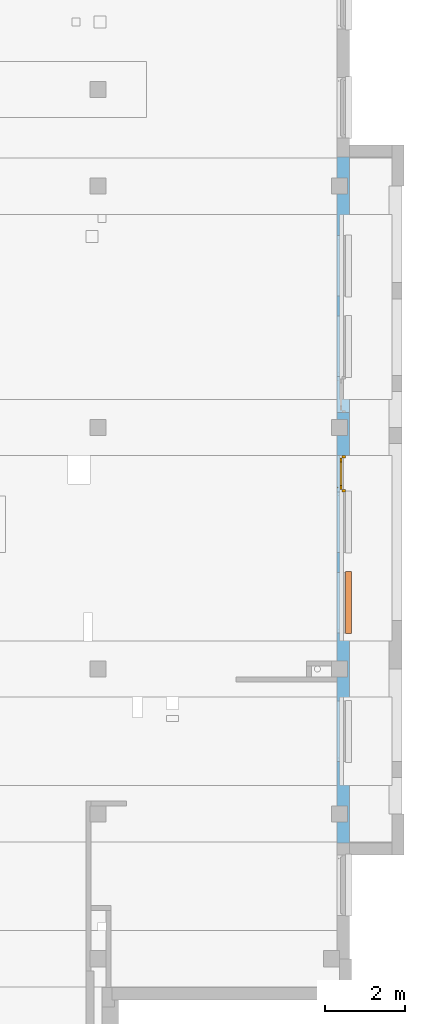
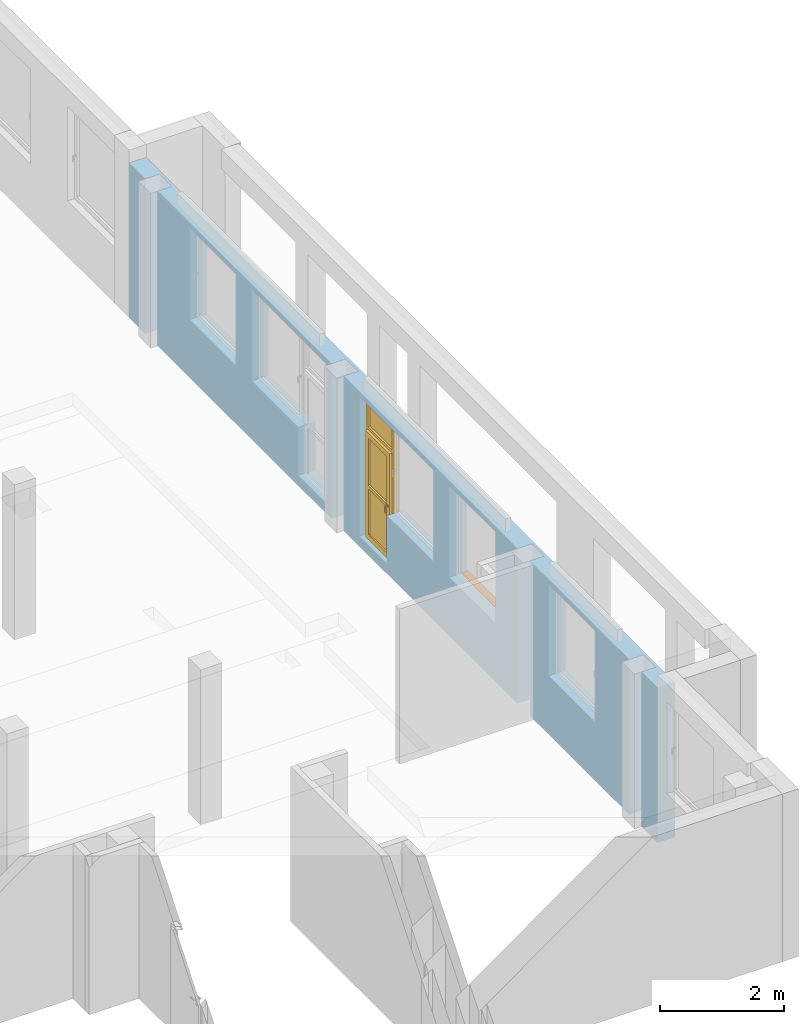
# One storey, part 20 of 27: 1 door, 1 proxy, 7 openings, plus 1 element that does not belong to this part.
"""IFC4 building model written with IfcOpenShell, lengths in metres."""

from ifc_helpers import new_model, entity, si_unit, converted_unit, derived_unit, frame, origin, origin_with_axes, place, context, subcontext, project, spatial, polyline, outline, extrude, closed_shell, open_shell, faceted_brep, surface_model, source, transform, mapped, material, layer, layer_set, layer_usage, type_object, element, fill, save


model = new_model("IFC4")

# Units and contexts
model_context = context("Model", 3, precision=1e-05, world=origin())
body_context = subcontext(model_context, "Body", "Model", "MODEL_VIEW")
ifc_project = project(units=[si_unit("LENGTHUNIT", "METRE"), si_unit("AREAUNIT", "SQUARE_METRE"), si_unit("VOLUMEUNIT", "CUBIC_METRE"), si_unit("MASSUNIT", "GRAM", prefix="KILO"), converted_unit("PLANEANGLEUNIT", "DEGREE", entity("IfcPlaneAngleMeasure", 0.0174532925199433), si_unit("PLANEANGLEUNIT", "RADIAN"), dimensions=[0, 0, 0, 0, 0, 0, 0]), derived_unit("THERMALTRANSMITTANCEUNIT", [(si_unit("POWERUNIT", "WATT"), 1), (si_unit("THERMODYNAMICTEMPERATUREUNIT", "KELVIN"), -1), (si_unit("LENGTHUNIT", "METRE"), -2)]), derived_unit("VOLUMETRICFLOWRATEUNIT", [(si_unit("LENGTHUNIT", "METRE"), 3), (converted_unit("TIMEUNIT", "hour", entity("IfcTimeMeasure", 3600.0), si_unit("TIMEUNIT", "SECOND"), dimensions=[0, 0, 1, 0, 0, 0, 0]), -1), (si_unit("LENGTHUNIT", "METRE"), -1)])], contexts=[model_context])

# Site, building, storey
site_placement = place(None, origin())
site = spatial("IfcSite", under=ifc_project, at=site_placement, Name="3. ASŘ", CompositionType="ELEMENT")
building_placement = place(site_placement, origin())
building = spatial("IfcBuilding", under=site, at=building_placement, Name="Pavilon C", CompositionType="ELEMENT")
storey_placement = place(building_placement, frame((0.0, 0.0, 10.5)))
storey = spatial("IfcBuildingStorey", under=building, at=storey_placement, Name="Půdorys 4.NP", CompositionType="ELEMENT", Elevation=10.5)

# Wall, openings, door, proxy
ifc_material_1 = material(Name="PLYNOSILIKÁT")
ifc_layer = layer(ifc_material_1, 0.32)
ifc_layer_set = layer_set([ifc_layer])
ifc_layer_usage = layer_usage(ifc_layer_set, "AXIS2", "POSITIVE", 0.0)
wall_placement = place(storey_placement, frame((50.2, 2.88, -0.1), z_axis=(0.0, 0.0, 1.0), x_axis=(0.0, 1.0, 0.0)))
wall = element("IfcWall", 1, at=wall_placement, inside=storey, material=ifc_layer_usage, Name="PLYNOSILIKÁT", context=body_context, shape_type="SweptSolid", body=[
    extrude(outline(polyline([(0.0, -0.32), (17.04, -0.32), (17.04, 0.0), (16.52, 0.0), (16.52, -0.27), (16.12, -0.27), (16.12, 0.0), (10.52, 0.0), (10.52, -0.27), (10.12, -0.27), (10.12, 0.0), (4.52, 0.0), (4.52, -0.27), (4.12, -0.27), (4.12, 0.0), (0.919999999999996, 0.0), (0.919999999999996, -0.27), (0.519999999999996, -0.27), (0.519999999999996, 0.0), (0.0, 0.0), (0.0, -0.32)])), frame((0.0, 0.32, 0.0), z_axis=(0.0, 0.0, 1.0), x_axis=(1.0, 0.0, 0.0)), (0.0, 0.0, 1.0), 3.05),
])
opening_1_placement = place(wall_placement, frame((2.02, 0.0, 1.15), z_axis=(0.0, 1.0, 0.0), x_axis=(0.0, 0.0, 1.0)))
element("IfcOpeningElement", 2, at=opening_1_placement, cuts=wall, Name="Okenní otvor", ObjectType="Opening", context=body_context, shape_type="SweptSolid", body=[
    extrude(outline(polyline([(0.0, 1.5), (1.8, 1.5), (1.8, 0.0), (0.0, 0.0), (0.0, 1.5)])), origin_with_axes(), (0.0, 0.0, 1.0), 0.32),
])
opening_2_placement = place(wall_placement, frame((13.59, 0.0, 1.15), z_axis=(0.0, 1.0, 0.0), x_axis=(0.0, 0.0, 1.0)))
element("IfcOpeningElement", 3, at=opening_2_placement, cuts=wall, Name="Okenní otvor", ObjectType="Opening", context=body_context, shape_type="SweptSolid", body=[
    extrude(outline(polyline([(0.0, 1.5), (1.8, 1.5), (1.8, 0.0), (0.0, 0.0), (0.0, 1.5)])), origin_with_axes(), (0.0, 0.0, 1.0), 0.32),
])
opening_3_placement = place(wall_placement, frame((10.69, 0.0, 0.2), z_axis=(0.0, 1.0, 0.0), x_axis=(0.0, 0.0, 1.0)))
element("IfcOpeningElement", 4, at=opening_3_placement, cuts=wall, Name="Dveřní otvor", ObjectType="Opening", context=body_context, shape_type="SweptSolid", body=[
    extrude(outline(polyline([(0.0, 0.9), (2.75, 0.9), (2.75, 0.0), (0.0, 0.0), (0.0, 0.9)])), origin_with_axes(), (0.0, 0.0, 1.0), 0.32),
])
opening_4_placement = place(wall_placement, frame((11.59, 0.0, 1.15), z_axis=(0.0, 1.0, 0.0), x_axis=(0.0, 0.0, 1.0)))
element("IfcOpeningElement", 5, at=opening_4_placement, cuts=wall, Name="Okenní otvor", ObjectType="Opening", context=body_context, shape_type="SweptSolid", body=[
    extrude(outline(polyline([(0.0, 1.5), (1.8, 1.5), (1.8, 0.0), (0.0, 0.0), (0.0, 1.5)])), origin_with_axes(), (0.0, 0.0, 1.0), 0.32),
])
opening_5_placement = place(wall_placement, frame((7.21999999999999, 0.0, 1.15), z_axis=(0.0, 1.0, 0.0), x_axis=(0.0, 0.0, 1.0)))
element("IfcOpeningElement", 6, at=opening_5_placement, cuts=wall, Name="Okenní otvor", ObjectType="Opening", context=body_context, shape_type="SweptSolid", body=[
    extrude(outline(polyline([(0.0, 1.5), (1.8, 1.5), (1.8, 0.0), (0.0, 0.0), (0.0, 1.5)])), origin_with_axes(), (0.0, 0.0, 1.0), 0.32),
])
opening_6_placement = place(wall_placement, frame((8.71999999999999, 0.0, 0.2), z_axis=(0.0, 1.0, 0.0), x_axis=(0.0, 0.0, 1.0)))
opening_6 = element("IfcOpeningElement", 7, at=opening_6_placement, cuts=wall, Name="Dveřní otvor", ObjectType="Opening", context=body_context, shape_type="SweptSolid", body=[
    extrude(outline(polyline([(0.0, 0.9), (2.75, 0.9), (2.75, 0.0), (0.0, 0.0), (0.0, 0.9)])), origin_with_axes(), (0.0, 0.0, 1.0), 0.32),
])
opening_7_placement = place(wall_placement, frame((5.21999999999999, 0.0, 1.15), z_axis=(0.0, 1.0, 0.0), x_axis=(0.0, 0.0, 1.0)))
opening_7 = element("IfcOpeningElement", 8, at=opening_7_placement, cuts=wall, Name="Okenní otvor", ObjectType="Opening", context=body_context, shape_type="SweptSolid", body=[
    extrude(outline(polyline([(0.0, 1.5), (1.8, 1.5), (1.8, 0.0), (0.0, 0.0), (0.0, 1.5)])), origin_with_axes(), (0.0, 0.0, 1.0), 0.32),
])
door_type = type_object("IfcDoorType", Name="D701", OperationType="NOTDEFINED", ParameterTakesPrecedence=False, PredefinedType="DOOR")
shared_shape_1 = source(origin_with_axes(), body_context, "Body", "SurfaceModel", [
    surface_model("IfcShellBasedSurfaceModel", [(0.0, 0.0920000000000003, 2.75), (0.0, 0.092, 8.57747943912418e-18), (0.06, 0.092, 8.57747943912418e-18), (0.06, 0.0920000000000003, 2.75), (0.0, 0.0, 1.98442299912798e-17), (0.0, 3.41060513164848e-16, 2.75), (0.06, 3.41060513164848e-16, 2.75), (0.06, 0.0, 1.98442299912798e-17)], [closed_shell([[[0, 1, 2, 3]], [[4, 5, 6, 7]], [[1, 0, 5, 4]], [[2, 1, 4, 7]], [[3, 2, 7, 6]], [[0, 3, 6, 5]]], orient=[[False], [False], [False], [False], [False], [False]])]),
    surface_model("IfcShellBasedSurfaceModel", [(0.84, 0.0920000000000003, 2.75), (0.84, 0.092, 8.57747943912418e-18), (0.9, 0.092, 8.57747943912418e-18), (0.9, 0.0920000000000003, 2.75), (0.84, 0.0, 1.98442299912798e-17), (0.84, 3.41060513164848e-16, 2.75), (0.9, 3.41060513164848e-16, 2.75), (0.9, 0.0, 1.98442299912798e-17)], [closed_shell([[[0, 1, 2, 3]], [[4, 5, 6, 7]], [[1, 0, 5, 4]], [[2, 1, 4, 7]], [[3, 2, 7, 6]], [[0, 3, 6, 5]]], orient=[[False], [False], [False], [False], [False], [False]])]),
    surface_model("IfcShellBasedSurfaceModel", [(0.06, 0.0920000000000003, 2.75), (0.06, 0.0920000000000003, 2.69), (0.84, 0.0920000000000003, 2.69), (0.84, 0.0920000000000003, 2.75), (0.06, 3.26849658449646e-16, 2.69), (0.06, 3.41060513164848e-16, 2.75), (0.84, 3.41060513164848e-16, 2.75), (0.84, 3.26849658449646e-16, 2.69)], [closed_shell([[[0, 1, 2, 3]], [[4, 5, 6, 7]], [[1, 0, 5, 4]], [[2, 1, 4, 7]], [[3, 2, 7, 6]], [[0, 3, 6, 5]]], orient=[[False], [False], [False], [False], [False], [False]])]),
    surface_model("IfcShellBasedSurfaceModel", [(0.06, 0.0920000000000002, 2.15), (0.06, 0.0920000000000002, 2.1), (0.84, 0.0920000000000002, 2.1), (0.84, 0.0920000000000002, 2.15), (0.06, 2.55795384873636e-16, 2.1), (0.06, 2.55795384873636e-16, 2.15), (0.84, 2.55795384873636e-16, 2.15), (0.84, 2.55795384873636e-16, 2.1)], [closed_shell([[[0, 1, 2, 3]], [[4, 5, 6, 7]], [[1, 0, 5, 4]], [[2, 1, 4, 7]], [[3, 2, 7, 6]], [[0, 3, 6, 5]]], orient=[[False], [False], [False], [False], [False], [False]])]),
    surface_model("IfcShellBasedSurfaceModel", [(0.06, 0.142, 2.1), (0.06, 0.142, 2.45424544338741e-18), (0.16, 0.142, 2.45424544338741e-18), (0.16, 0.142, 2.1), (0.06, 0.092, 8.57747943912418e-18), (0.06, 0.0920000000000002, 2.1), (0.16, 0.0920000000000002, 2.1), (0.16, 0.092, 8.57747943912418e-18)], [closed_shell([[[0, 1, 2, 3]], [[4, 5, 6, 7]], [[1, 0, 5, 4]], [[2, 1, 4, 7]], [[3, 2, 7, 6]], [[0, 3, 6, 5]]], orient=[[False], [False], [False], [False], [False], [False]])]),
    surface_model("IfcShellBasedSurfaceModel", [(0.74, 0.142, 2.1), (0.74, 0.142, 2.45424544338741e-18), (0.84, 0.142, 2.45424544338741e-18), (0.84, 0.142, 2.1), (0.74, 0.092, 8.57747943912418e-18), (0.74, 0.0920000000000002, 2.1), (0.84, 0.0920000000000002, 2.1), (0.84, 0.092, 8.57747943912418e-18)], [closed_shell([[[0, 1, 2, 3]], [[4, 5, 6, 7]], [[1, 0, 5, 4]], [[2, 1, 4, 7]], [[3, 2, 7, 6]], [[0, 3, 6, 5]]], orient=[[False], [False], [False], [False], [False], [False]])]),
    surface_model("IfcShellBasedSurfaceModel", [(0.16, 0.142, 0.1), (0.16, 0.142, 2.45424544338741e-18), (0.74, 0.142, 2.45424544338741e-18), (0.74, 0.142, 0.1), (0.16, 0.092, 8.57747943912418e-18), (0.16, 0.092, 0.1), (0.74, 0.092, 0.1), (0.74, 0.092, 8.57747943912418e-18)], [closed_shell([[[0, 1, 2, 3]], [[4, 5, 6, 7]], [[1, 0, 5, 4]], [[2, 1, 4, 7]], [[3, 2, 7, 6]], [[0, 3, 6, 5]]], orient=[[False], [False], [False], [False], [False], [False]])]),
    surface_model("IfcShellBasedSurfaceModel", [(0.16, 0.142, 2.1), (0.16, 0.142, 2.0), (0.74, 0.142, 2.0), (0.74, 0.142, 2.1), (0.16, 0.0920000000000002, 2.0), (0.16, 0.0920000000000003, 2.1), (0.74, 0.0920000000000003, 2.1), (0.74, 0.0920000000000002, 2.0)], [closed_shell([[[0, 1, 2, 3]], [[4, 5, 6, 7]], [[1, 0, 5, 4]], [[2, 1, 4, 7]], [[3, 2, 7, 6]], [[0, 3, 6, 5]]], orient=[[False], [False], [False], [False], [False], [False]])]),
    surface_model("IfcShellBasedSurfaceModel", [(0.7775, 0.142, 1.07), (0.8025, 0.142, 1.07), (0.8025, 0.142, 1.03), (0.7775, 0.142, 1.03), (0.7775, 0.152, 1.03), (0.8025, 0.152, 1.03), (0.8025, 0.152, 1.07), (0.7775, 0.152, 1.07)], [closed_shell([[[0, 1, 2, 3]], [[4, 5, 6, 7]], [[3, 4, 7, 0]], [[2, 5, 4, 3]], [[1, 6, 5, 2]], [[0, 7, 6, 1]]], orient=[[False], [False], [False], [False], [False], [False]])]),
    surface_model("IfcShellBasedSurfaceModel", [(0.8, 0.152, 1.05), (0.798660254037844, 0.152, 1.045), (0.795, 0.152, 1.04133974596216), (0.79, 0.152, 1.04), (0.785, 0.152, 1.04133974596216), (0.781339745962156, 0.152, 1.045), (0.78, 0.152, 1.05), (0.781339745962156, 0.152, 1.055), (0.785, 0.152, 1.05866025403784), (0.79, 0.152, 1.06), (0.795, 0.152, 1.05866025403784), (0.798660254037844, 0.152, 1.055), (0.798660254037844, 0.197, 1.055), (0.8, 0.192, 1.05), (0.795, 0.200660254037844, 1.05866025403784), (0.79, 0.202, 1.06), (0.785, 0.200660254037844, 1.05866025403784), (0.781339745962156, 0.197, 1.055), (0.78, 0.192, 1.05), (0.781339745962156, 0.187, 1.045), (0.785, 0.183339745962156, 1.04133974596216), (0.79, 0.182, 1.04), (0.795, 0.183339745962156, 1.04133974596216), (0.798660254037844, 0.187, 1.045), (0.798660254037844, 0.197, 0.935), (0.8, 0.192, 0.935), (0.795, 0.200660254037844, 0.935), (0.79, 0.202, 0.935), (0.785, 0.200660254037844, 0.935), (0.781339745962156, 0.197, 0.935), (0.78, 0.192, 0.935), (0.781339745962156, 0.187, 0.935), (0.785, 0.183339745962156, 0.935), (0.79, 0.182, 0.935), (0.795, 0.183339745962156, 0.935), (0.798660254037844, 0.187, 0.935)], [open_shell([[[0, 1, 2, 3, 4, 5, 6, 7, 8, 9, 10, 11]], [[0, 11, 12, 13]], [[11, 10, 14, 12]], [[10, 9, 15, 14]], [[9, 8, 16, 15]], [[8, 7, 17, 16]], [[7, 6, 18, 17]], [[6, 5, 19, 18]], [[5, 4, 20, 19]], [[4, 3, 21, 20]], [[3, 2, 22, 21]], [[2, 1, 23, 22]], [[1, 0, 13, 23]], [[13, 12, 24, 25]], [[12, 14, 26, 24]], [[14, 15, 27, 26]], [[15, 16, 28, 27]], [[16, 17, 29, 28]], [[17, 18, 30, 29]], [[18, 19, 31, 30]], [[19, 20, 32, 31]], [[20, 21, 33, 32]], [[21, 22, 34, 33]], [[22, 23, 35, 34]], [[23, 13, 25, 35]]], orient=[[False], [False], [False], [False], [False], [False], [False], [False], [False], [False], [False], [False], [False], [False], [False], [False], [False], [False], [False], [False], [False], [False], [False], [False], [False]])]),
    surface_model("IfcShellBasedSurfaceModel", [(0.06, 0.0560000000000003, 2.69), (0.06, 0.0560000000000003, 2.15), (0.84, 0.0560000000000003, 2.15), (0.84, 0.0560000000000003, 2.69), (0.06, 0.0360000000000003, 2.15), (0.06, 0.0360000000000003, 2.69), (0.84, 0.0360000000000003, 2.69), (0.84, 0.0360000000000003, 2.15)], [closed_shell([[[0, 1, 2, 3]], [[4, 5, 6, 7]], [[1, 0, 5, 4]], [[2, 1, 4, 7]], [[3, 2, 7, 6]], [[0, 3, 6, 5]]], orient=[[False], [False], [False], [False], [False], [False]])]),
    surface_model("IfcShellBasedSurfaceModel", [(0.16, 0.152, 1.08), (0.16, 0.152, 1.02), (0.74, 0.152, 1.02), (0.74, 0.152, 1.08), (0.16, 0.0820000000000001, 1.02), (0.16, 0.0820000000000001, 1.08), (0.74, 0.0820000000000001, 1.08), (0.74, 0.0820000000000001, 1.02)], [closed_shell([[[0, 1, 2, 3]], [[4, 5, 6, 7]], [[1, 0, 5, 4]], [[2, 1, 4, 7]], [[3, 2, 7, 6]], [[0, 3, 6, 5]]], orient=[[False], [False], [False], [False], [False], [False]])]),
    surface_model("IfcShellBasedSurfaceModel", [(0.16, 0.117, 0.1), (0.74, 0.117, 0.1), (0.74, 0.117, 1.02), (0.16, 0.117, 1.02)], [open_shell([[[0, 1, 2, 3]]], orient=[[False]])]),
    surface_model("IfcShellBasedSurfaceModel", [(0.16, 0.117, 1.08), (0.74, 0.117, 1.08), (0.74, 0.117, 2.0), (0.16, 0.117, 2.0)], [open_shell([[[0, 1, 2, 3]]], orient=[[False]])]),
])
door_placement = place(opening_6_placement, frame((0.0, 0.899999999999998, 0.100000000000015), z_axis=(1.0, 0.0, 0.0), x_axis=(0.0, -1.0, 1.22464679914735e-16)))
door = element("IfcDoor", 9, at=door_placement, inside=storey, type_object=door_type, Name="D701", OverallHeight=2.75, OverallWidth=0.9, context=body_context, shape_type="MappedRepresentation", body=[
    mapped(shared_shape_1, transform((0.0, 0.0, 0.0), x_axis=(1.0, 0.0, 0.0), y_axis=(0.0, -1.0, 0.0), z_axis=(0.0, 0.0, 1.0), scale=1.0)),
])
fill(opening_6, door)
ifc_material_2 = material(Name="PLECH")
shared_shape_2 = source(origin_with_axes(), body_context, "Body", "Brep", [
    faceted_brep([(-1.81898940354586e-15, 1.45519152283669e-14, 0.0), (-1.81898940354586e-15, 0.100000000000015, 0.0), (-1.81898940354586e-15, 0.100000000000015, 0.005), (-1.81898940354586e-15, 1.45519152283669e-14, 0.005), (1.5, 1.45519152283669e-14, 0.0), (1.5, 1.45519152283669e-14, 0.005), (1.5, 0.100000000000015, 0.005), (1.5, 0.100000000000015, 0.0), (-0.0200000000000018, 1.45519152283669e-14, 0.0), (-0.0200000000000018, -0.0349999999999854, 0.0), (1.52, -0.0349999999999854, 0.0), (1.52, 1.45519152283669e-14, 0.0), (1.52, 1.45519152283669e-14, 0.005), (1.52, -0.0399999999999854, 0.005), (-0.0200000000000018, -0.0399999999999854, 0.005), (-0.0200000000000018, 1.45519152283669e-14, 0.005), (-0.0200000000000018, -0.0399999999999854, -0.025), (-0.0200000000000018, -0.0349999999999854, -0.025), (1.52, -0.0349999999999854, -0.025), (1.52, -0.0399999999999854, -0.025)], [[[0, 1, 2, 3]], [[4, 5, 6, 7]], [[1, 0, 8, 9, 10, 11, 4, 7]], [[2, 1, 7, 6]], [[3, 2, 6, 5, 12, 13, 14, 15]], [[8, 15, 14, 16, 17, 9]], [[11, 10, 18, 19, 13, 12]], [[15, 8, 0, 3]], [[5, 4, 11, 12]], [[16, 14, 13, 19]], [[17, 16, 19, 18]], [[9, 17, 18, 10]]], orient=[[False], [False], [False], [False], [False], [False], [False], [False], [False], [False], [False], [False]]),
    faceted_brep([(-0.0200000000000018, 1.45519152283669e-14, 0.0), (-0.0200000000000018, 0.100000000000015, 0.0), (-0.0200000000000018, 0.100000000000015, 0.005), (-0.0200000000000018, 1.45519152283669e-14, 0.005), (-1.81898940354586e-15, 1.45519152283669e-14, 0.0), (-1.81898940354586e-15, 1.45519152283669e-14, 0.005), (-1.81898940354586e-15, 0.100000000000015, 0.005), (-1.81898940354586e-15, 0.100000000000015, 0.0)], [[[0, 1, 2, 3]], [[4, 5, 6, 7]], [[1, 0, 4, 7]], [[2, 1, 7, 6]], [[3, 2, 6, 5]], [[0, 3, 5, 4]]], orient=[[False], [False], [False], [False], [False], [False]]),
    faceted_brep([(1.5, 1.45519152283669e-14, 0.0), (1.5, 0.100000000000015, 0.0), (1.5, 0.100000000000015, 0.005), (1.5, 1.45519152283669e-14, 0.005), (1.52, 1.45519152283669e-14, 0.0), (1.52, 1.45519152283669e-14, 0.005), (1.52, 0.100000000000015, 0.005), (1.52, 0.100000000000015, 0.0)], [[[0, 1, 2, 3]], [[4, 5, 6, 7]], [[1, 0, 4, 7]], [[2, 1, 7, 6]], [[3, 2, 6, 5]], [[0, 3, 5, 4]]], orient=[[False], [False], [False], [False], [False], [False]]),
])
proxy_placement = place(opening_7_placement, frame((0.0, 0.0, 0.0), z_axis=(1.0, 0.0, 0.0), x_axis=(0.0, 1.0, 0.0)))
proxy = element("IfcBuildingElementProxy", 10, at=proxy_placement, inside=storey, material=ifc_material_2, Name="Parapet vnější", context=body_context, shape_type="MappedRepresentation", body=[
    mapped(shared_shape_2, transform((0.0, 0.0, 0.0), x_axis=(1.0, 0.0, 0.0), y_axis=(0.0, 1.0, 0.0), z_axis=(0.0, 0.0, 1.0), scale=1.0)),
])
fill(opening_7, proxy)

save(model, "model.ifc")
